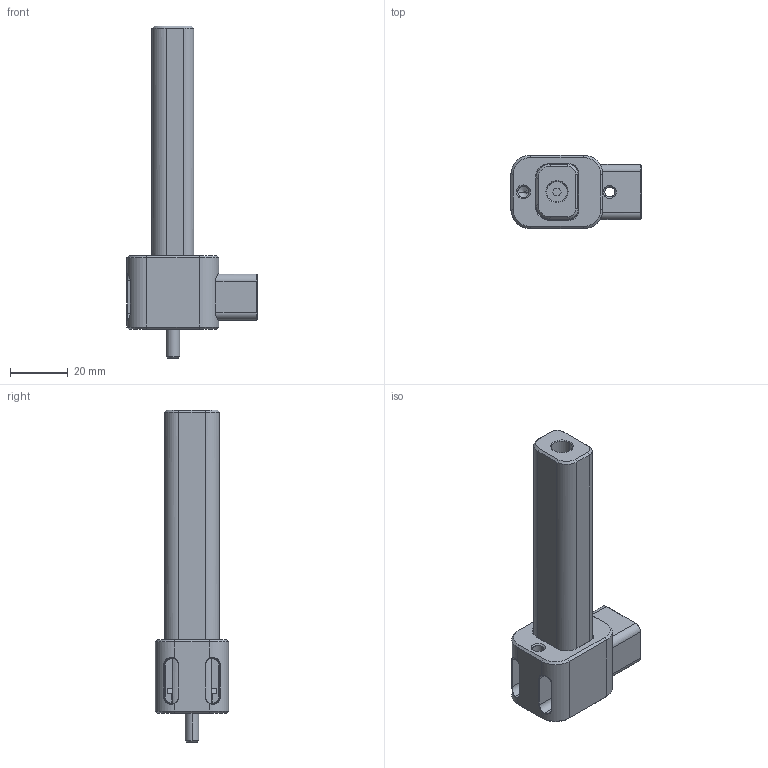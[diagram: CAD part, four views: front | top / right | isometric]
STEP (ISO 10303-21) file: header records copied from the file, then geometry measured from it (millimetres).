
FILE_DESCRIPTION (( 'STEP AP203' ), '1' );
FILE_NAME ('CA-200L.STEP', '2011-07-26T20:57:51', ( '' ), ( '' ), 'SwSTEP 2.0', 'SolidWorks 2010', '' );
FILE_SCHEMA (( 'CONFIG_CONTROL_DESIGN' ));
Length unit declared in the file: inch
Products named in the file (5): CA-200L; CA-100-H; CA-200-DL4; 10-24 LHCS; CA-100-S
Assembly tree (4 placements, depth 2):
  CA-200L
    CA-100-H
    CA-200-DL4
    10-24 LHCS
    CA-100-S
Bounding box: 44.88 x 25.37 x 114.55 mm (x, y, z)
Volume: 35411.3 mm3; surface area: 18872.3 mm2
Topology: 4 solids, 4 shells, 296 faces, 733 edges, 442 vertices
Faces by surface type: plane 140, cylinder 74, cone 50, torus 16, bspline 16
Entity records: 11487 total; most frequent: CARTESIAN_POINT 3962, DIRECTION 1472, ORIENTED_EDGE 1458, EDGE_CURVE 729, AXIS2_PLACEMENT_3D 508, VECTOR 456, LINE 456, VERTEX_POINT 442
